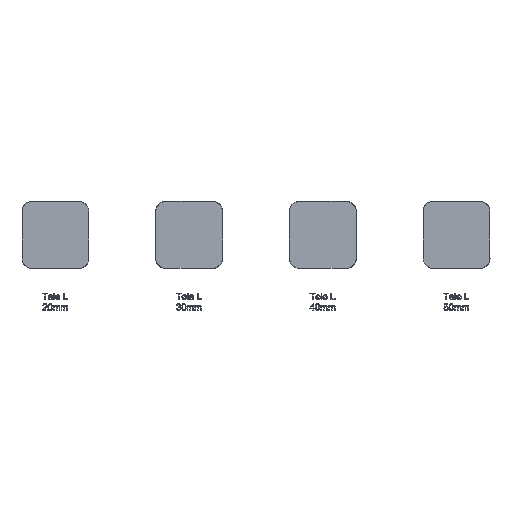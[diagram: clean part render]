
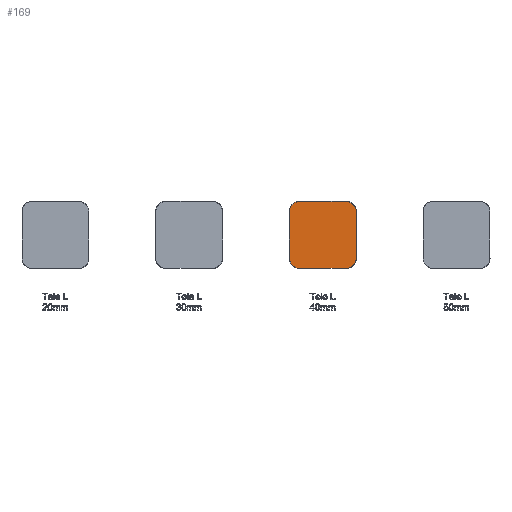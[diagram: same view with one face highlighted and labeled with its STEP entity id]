
A CAD part, top view. The second image highlights one B-rep face of the part: STEP entity #169.
In plain terms, the highlighted planar face has unit normal (0, 0, 1).
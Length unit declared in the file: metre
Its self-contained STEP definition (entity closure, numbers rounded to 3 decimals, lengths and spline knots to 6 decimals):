
#169=ADVANCED_FACE('',(#309),#3043,.T.);
#309=FACE_OUTER_BOUND('',#449,.T.);
#449=EDGE_LOOP('',(#719,#720,#721,#722,#723,#724,#725,#726));
#719=ORIENTED_EDGE('',*,*,#1489,.T.);
#720=ORIENTED_EDGE('',*,*,#1524,.T.);
#721=ORIENTED_EDGE('',*,*,#1492,.T.);
#722=ORIENTED_EDGE('',*,*,#1500,.T.);
#723=ORIENTED_EDGE('',*,*,#1490,.T.);
#724=ORIENTED_EDGE('',*,*,#1508,.T.);
#725=ORIENTED_EDGE('',*,*,#1491,.T.);
#726=ORIENTED_EDGE('',*,*,#1516,.T.);
#1489=EDGE_CURVE('',#2570,#2571,#2047,.T.);
#1490=EDGE_CURVE('',#2573,#2574,#2048,.T.);
#1491=EDGE_CURVE('',#2575,#2572,#2049,.T.);
#1492=EDGE_CURVE('',#2576,#2577,#2050,.T.);
#1500=EDGE_CURVE('',#2577,#2573,#3356,.T.);
#1508=EDGE_CURVE('',#2574,#2575,#3364,.T.);
#1516=EDGE_CURVE('',#2572,#2570,#3372,.T.);
#1524=EDGE_CURVE('',#2571,#2576,#3380,.T.);
#2047=B_SPLINE_CURVE_WITH_KNOTS('',1,(#4807,#4808),.UNSPECIFIED.,.F.,.F.,
(2,2),(-0.000005,350.000005),.UNSPECIFIED.);
#2048=B_SPLINE_CURVE_WITH_KNOTS('',1,(#4809,#4810),.UNSPECIFIED.,.F.,.F.,
(2,2),(0.000083,350.000005),.UNSPECIFIED.);
#2049=B_SPLINE_CURVE_WITH_KNOTS('',1,(#4811,#4812),.UNSPECIFIED.,.F.,.F.,
(2,2),(0.000083,350.),.UNSPECIFIED.);
#2050=B_SPLINE_CURVE_WITH_KNOTS('',1,(#4813,#4814),.UNSPECIFIED.,.F.,.F.,
(2,2),(0.000083,349.999917),.UNSPECIFIED.);
#2570=VERTEX_POINT('',#4751);
#2571=VERTEX_POINT('',#4752);
#2572=VERTEX_POINT('',#4753);
#2573=VERTEX_POINT('',#4754);
#2574=VERTEX_POINT('',#4755);
#2575=VERTEX_POINT('',#4756);
#2576=VERTEX_POINT('',#4757);
#2577=VERTEX_POINT('',#4758);
#3043=PLANE('',#3587);
#3356=(
BOUNDED_CURVE()
B_SPLINE_CURVE(3,(#4842,#4843,#4844,#4845,#4846,#4847,#4848,#4849,#4850,
#4851,#4852),.UNSPECIFIED.,.F.,.F.)
B_SPLINE_CURVE_WITH_KNOTS((4,1,1,1,1,1,1,1,4),(0.,13.947464,27.894927,
43.00715,58.119372,73.231595,88.343817,102.291281,
116.238745),.UNSPECIFIED.)
CURVE()
GEOMETRIC_REPRESENTATION_ITEM()
RATIONAL_B_SPLINE_CURVE((1.,1.,1.,1.,1.,1.,
1.,1.,1.,1.,1.))
REPRESENTATION_ITEM('')
);
#3364=(
BOUNDED_CURVE()
B_SPLINE_CURVE(3,(#4880,#4881,#4882,#4883,#4884,#4885,#4886,#4887,#4888,
#4889,#4890),.UNSPECIFIED.,.F.,.F.)
B_SPLINE_CURVE_WITH_KNOTS((4,1,1,1,1,1,1,1,4),(0.,13.947464,
27.894927,43.00715,58.119372,73.231595,88.343817,
102.291281,116.238745),.UNSPECIFIED.)
CURVE()
GEOMETRIC_REPRESENTATION_ITEM()
RATIONAL_B_SPLINE_CURVE((1.,1.,1.,1.,1.,1.,
1.,1.,1.,1.,1.))
REPRESENTATION_ITEM('')
);
#3372=(
BOUNDED_CURVE()
B_SPLINE_CURVE(3,(#4918,#4919,#4920,#4921,#4922,#4923,#4924,#4925,#4926,
#4927,#4928),.UNSPECIFIED.,.F.,.F.)
B_SPLINE_CURVE_WITH_KNOTS((4,1,1,1,1,1,1,1,4),(0.,13.947464,
27.894927,43.00715,58.119372,73.231595,88.343817,
102.291281,116.238745),.UNSPECIFIED.)
CURVE()
GEOMETRIC_REPRESENTATION_ITEM()
RATIONAL_B_SPLINE_CURVE((1.,1.,1.,1.,1.,1.,
1.,1.,1.,1.,1.))
REPRESENTATION_ITEM('')
);
#3380=(
BOUNDED_CURVE()
B_SPLINE_CURVE(3,(#4956,#4957,#4958,#4959,#4960,#4961,#4962,#4963,#4964,
#4965,#4966),.UNSPECIFIED.,.F.,.F.)
B_SPLINE_CURVE_WITH_KNOTS((4,1,1,1,1,1,1,1,4),(0.,13.947464,
27.894927,43.00715,58.119372,73.231595,88.343817,
102.291281,116.238745),.UNSPECIFIED.)
CURVE()
GEOMETRIC_REPRESENTATION_ITEM()
RATIONAL_B_SPLINE_CURVE((1.,1.,1.,1.,1.,1.,1.,
1.,1.,1.,1.))
REPRESENTATION_ITEM('')
);
#3587=AXIS2_PLACEMENT_3D('',#4414,#3656,$);
#3656=DIRECTION('',(0.,0.,1.));
#4414=CARTESIAN_POINT('',(-312.5,-312.5,40.));
#4751=CARTESIAN_POINT('',(-175.,-249.,40.));
#4752=CARTESIAN_POINT('',(175.,-249.,40.));
#4753=CARTESIAN_POINT('',(-249.,-175.,40.));
#4754=CARTESIAN_POINT('',(175.,249.,40.));
#4755=CARTESIAN_POINT('',(-175.,249.,40.));
#4756=CARTESIAN_POINT('',(-249.,175.,40.));
#4757=CARTESIAN_POINT('',(249.,-175.,40.));
#4758=CARTESIAN_POINT('',(249.,175.,40.));
#4807=CARTESIAN_POINT('',(-175.,-249.,40.));
#4808=CARTESIAN_POINT('',(175.,-249.,40.));
#4809=CARTESIAN_POINT('',(175.,249.,40.));
#4810=CARTESIAN_POINT('',(-175.,249.,40.));
#4811=CARTESIAN_POINT('',(-249.,175.,40.));
#4812=CARTESIAN_POINT('',(-249.,-175.,40.));
#4813=CARTESIAN_POINT('',(249.,-175.,40.));
#4814=CARTESIAN_POINT('',(249.,175.,40.));
#4842=CARTESIAN_POINT('',(249.,175.,40.));
#4843=CARTESIAN_POINT('',(249.000271,179.649134,40.));
#4844=CARTESIAN_POINT('',(248.121086,188.947354,40.));
#4845=CARTESIAN_POINT('',(244.104425,202.775372,40.));
#4846=CARTESIAN_POINT('',(237.282005,215.910177,40.));
#4847=CARTESIAN_POINT('',(227.690984,227.690986,40.));
#4848=CARTESIAN_POINT('',(215.910196,237.282002,40.));
#4849=CARTESIAN_POINT('',(202.775385,244.10445,40.));
#4850=CARTESIAN_POINT('',(188.947354,248.12106,40.));
#4851=CARTESIAN_POINT('',(179.649168,249.000337,40.));
#4852=CARTESIAN_POINT('',(175.,249.,40.));
#4880=CARTESIAN_POINT('',(-175.,249.,40.));
#4881=CARTESIAN_POINT('',(-179.649134,249.000271,40.));
#4882=CARTESIAN_POINT('',(-188.947354,248.121086,40.));
#4883=CARTESIAN_POINT('',(-202.775372,244.104425,40.));
#4884=CARTESIAN_POINT('',(-215.910177,237.282005,40.));
#4885=CARTESIAN_POINT('',(-227.690986,227.690984,40.));
#4886=CARTESIAN_POINT('',(-237.282002,215.910196,40.));
#4887=CARTESIAN_POINT('',(-244.10445,202.775385,40.));
#4888=CARTESIAN_POINT('',(-248.12106,188.947354,40.));
#4889=CARTESIAN_POINT('',(-249.000337,179.649168,40.));
#4890=CARTESIAN_POINT('',(-249.,175.,40.));
#4918=CARTESIAN_POINT('',(-249.,-175.,40.));
#4919=CARTESIAN_POINT('',(-249.000271,-179.649134,40.));
#4920=CARTESIAN_POINT('',(-248.121086,-188.947354,40.));
#4921=CARTESIAN_POINT('',(-244.104425,-202.775372,40.));
#4922=CARTESIAN_POINT('',(-237.282005,-215.910177,40.));
#4923=CARTESIAN_POINT('',(-227.690984,-227.690986,40.));
#4924=CARTESIAN_POINT('',(-215.910196,-237.282002,40.));
#4925=CARTESIAN_POINT('',(-202.775385,-244.10445,40.));
#4926=CARTESIAN_POINT('',(-188.947354,-248.12106,40.));
#4927=CARTESIAN_POINT('',(-179.649168,-249.000337,40.));
#4928=CARTESIAN_POINT('',(-175.,-249.,40.));
#4956=CARTESIAN_POINT('',(175.,-249.,40.));
#4957=CARTESIAN_POINT('',(179.649134,-249.000271,40.));
#4958=CARTESIAN_POINT('',(188.947354,-248.121086,40.));
#4959=CARTESIAN_POINT('',(202.775372,-244.104425,40.));
#4960=CARTESIAN_POINT('',(215.910177,-237.282005,40.));
#4961=CARTESIAN_POINT('',(227.690986,-227.690984,40.));
#4962=CARTESIAN_POINT('',(237.282002,-215.910196,40.));
#4963=CARTESIAN_POINT('',(244.10445,-202.775385,40.));
#4964=CARTESIAN_POINT('',(248.12106,-188.947354,40.));
#4965=CARTESIAN_POINT('',(249.000337,-179.649168,40.));
#4966=CARTESIAN_POINT('',(249.,-175.,40.));
